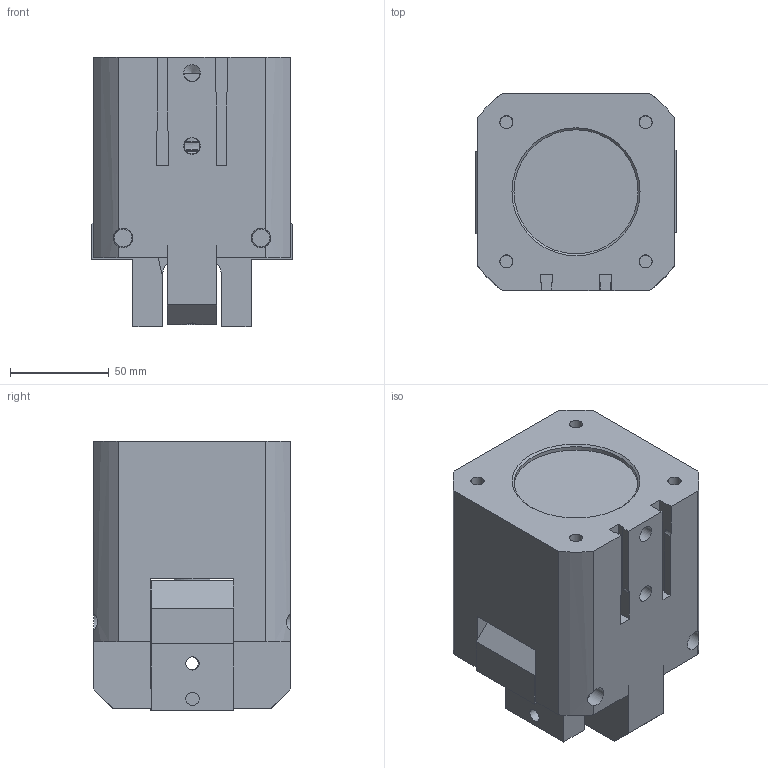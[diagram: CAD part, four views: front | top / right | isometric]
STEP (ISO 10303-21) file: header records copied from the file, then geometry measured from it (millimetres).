
FILE_DESCRIPTION(/* description */ (''),/* implementation_level */ '2;1');
FILE_NAME(/* name */ '\\dc01\daten\CAD\Standard\Daten\3D-Datenbank\GZ\4 - 3D-CAD-Daten GZ 050-125\GZ125\step-Daten\G-GZ125-IO.stp',/* time_stamp */ '2016-11-11T10:21:29+01:00',/* author */ ('ysplieth'),/* organization */ (''),/* preprocessor_version */ 'ST-DEVELOPER v15.2',/* originating_system */ 'Autodesk Inventor 2014',/* authorisation */ '');
FILE_SCHEMA (('AUTOMOTIVE_DESIGN { 1 0 10303 214 3 1 1 }'));
Length unit declared in the file: millimetre
Products named in the file (1): Bauteil2
Bounding box: 102 x 100 x 136.7 mm (x, y, z)
Volume: 877350.2 mm3; surface area: 162930.5 mm2
Topology: 1 solids, 21 shells, 328 faces, 826 edges, 540 vertices
Faces by surface type: plane 174, cylinder 99, cone 32, torus 23
Full cylindrical faces by diameter (mm): 3.3 x1, 4.917 x2, 6 x2, 6.4 x2, 6.647 x4, 6.75 x4, 8 x4, 8.376 x1, 8.566 x2, 9 x4, 10 x14, 10.25 x1, 11 x2, 13 x4, 15 x4, 16 x2, 25 x3, 28 x1, 31.4 x2, 37 x1, 52 x1, 60 x2, 63 x1, 70.2 x1, 77.1 x2, 80 x4
Entity records: 9293 total; most frequent: CARTESIAN_POINT 1935, DIRECTION 1434, ORIENTED_EDGE 1244, EDGE_CURVE 620, AXIS2_PLACEMENT_3D 554, EDGE_LOOP 524, VERTEX_POINT 462, ADVANCED_FACE 328
